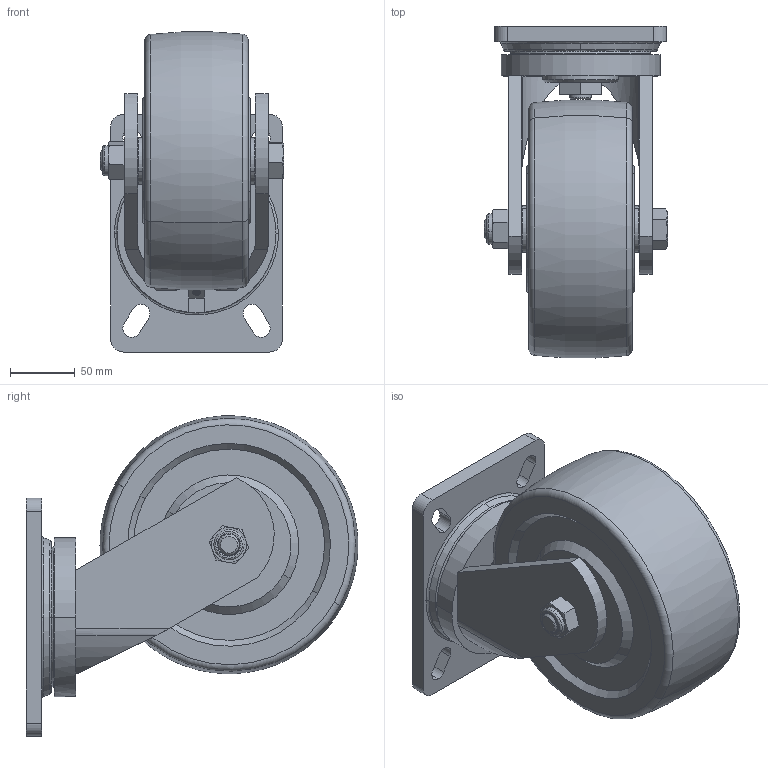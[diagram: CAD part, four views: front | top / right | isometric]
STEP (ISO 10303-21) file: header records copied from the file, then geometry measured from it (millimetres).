
FILE_DESCRIPTION (( 'STEP AP214' ), '1' );
FILE_NAME ('93118-938-26 す階勀砃.STEP', '2019-12-27T00:46:57', ( 'Owner' ), ( 'Organization' ), 'SwSTEP 2.0', 'SolidWorks 2014', '' );
FILE_SCHEMA (( 'AUTOMOTIVE_DESIGN' ));
Length unit declared in the file: millimetre
Products named in the file (7): 930-34; 93118-938-26 す階勀砃; 938-26; 930-33; 930-01b 侐源; 938c11; 930c03 湮詩俖
Assembly tree (6 placements, depth 2):
  93118-938-26 す階勀砃
    930-01b 侐源
    930c03 湮詩俖
    930-33
    930-34
    938c11
    938-26
Bounding box: 142 x 256.79 x 247.7 mm (x, y, z)
Volume: 3261437.6 mm3; surface area: 290198.8 mm2
Topology: 8 solids, 8 shells, 387 faces, 1010 edges, 657 vertices
Faces by surface type: cylinder 175, plane 82, bspline 78, cone 46, torus 6
Entity records: 390772 total; most frequent: CARTESIAN_POINT 381914, ORIENTED_EDGE 2020, DIRECTION 1411, EDGE_CURVE 1010, VERTEX_POINT 657, AXIS2_PLACEMENT_3D 529, EDGE_LOOP 421, B_SPLINE_CURVE_WITH_KNOTS 408
